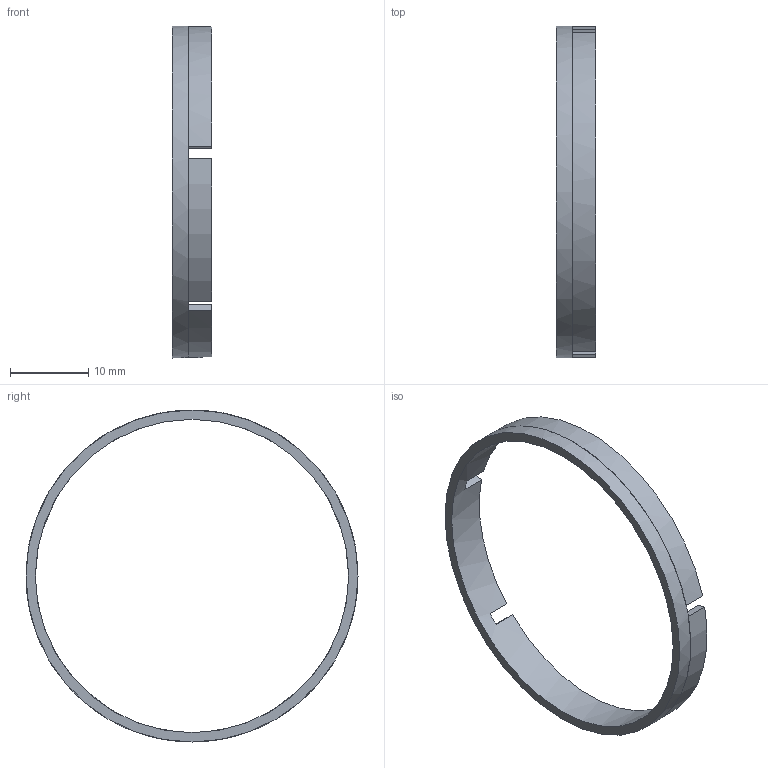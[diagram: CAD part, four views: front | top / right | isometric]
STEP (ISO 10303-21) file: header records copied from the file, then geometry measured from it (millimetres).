
FILE_DESCRIPTION(('Open CASCADE Model'),'2;1');
FILE_NAME('Open CASCADE Shape Model','2026-10-04T08:08:20',('Author'),( 'Open CASCADE'),'Open CASCADE STEP processor 7.9','Open CASCADE 7.9' ,'Unknown');
FILE_SCHEMA(('AUTOMOTIVE_DESIGN { 1 0 10303 214 1 1 1 1 }'));
Length unit declared in the file: millimetre
Products named in the file (1): Open CASCADE STEP translator 7.9 4
Bounding box: 5 x 42.5 x 42.5 mm (x, y, z)
Volume: 735.7 mm3; surface area: 1596.3 mm2
Topology: 1 solids, 1 shells, 31 faces, 90 edges, 60 vertices
Faces by surface type: plane 24, cylinder 6, bspline 1
Full cylindrical faces by diameter (mm): 40.1 x1, 42.5 x1
Entity records: 2186 total; most frequent: CARTESIAN_POINT 550, DIRECTION 256, ORIENTED_EDGE 180, PCURVE 180, DEFINITIONAL_REPRESENTATION 180, B_SPLINE_CURVE_WITH_KNOTS 107, LINE 97, VECTOR 97
